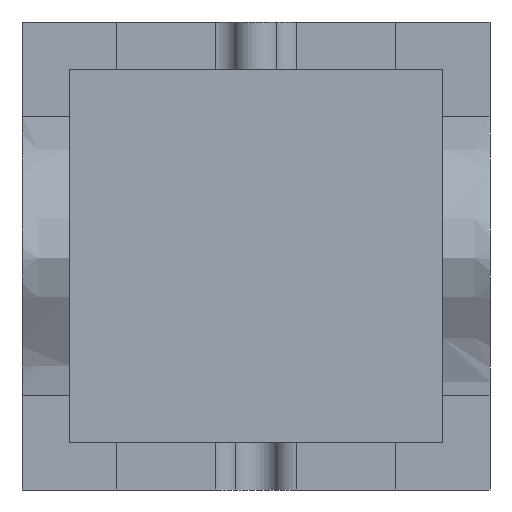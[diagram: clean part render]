
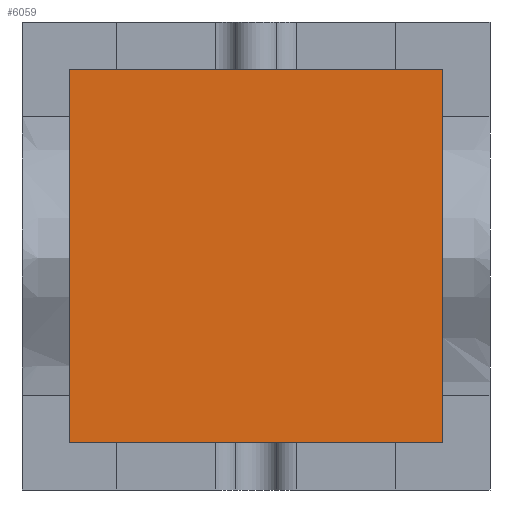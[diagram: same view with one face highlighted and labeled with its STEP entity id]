
A CAD part, front view. The second image highlights one B-rep face of the part: STEP entity #6059.
In plain terms, the highlighted planar face has unit normal (0, -1, 0).
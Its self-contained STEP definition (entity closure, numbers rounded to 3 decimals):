
#5933=CARTESIAN_POINT('Vertex',(-20.,-30.,-20.)) ;
#5938=CARTESIAN_POINT('Line Origine',(-20.,-30.,59.5)) ;
#5942=CARTESIAN_POINT('Vertex',(-20.,-30.,139.)) ;
#5969=CARTESIAN_POINT('Line Origine',(59.5,-30.,139.)) ;
#5973=CARTESIAN_POINT('Vertex',(139.,-30.,139.)) ;
#6000=CARTESIAN_POINT('Line Origine',(139.,-30.,59.5)) ;
#6004=CARTESIAN_POINT('Vertex',(139.,-30.,-20.)) ;
#6031=CARTESIAN_POINT('Line Origine',(59.5,-30.,-20.)) ;
#6048=CARTESIAN_POINT('Axis2P3D Location',(0.,-30.,0.)) ;
#5939=DIRECTION('Vector Direction',(0.,0.,-1.)) ;
#5970=DIRECTION('Vector Direction',(1.,0.,0.)) ;
#6001=DIRECTION('Vector Direction',(0.,0.,1.)) ;
#6032=DIRECTION('Vector Direction',(-1.,0.,0.)) ;
#6049=DIRECTION('Axis2P3D Direction',(0.,1.,0.)) ;
#6050=DIRECTION('Axis2P3D XDirection',(-1.,0.,0.)) ;
#6051=AXIS2_PLACEMENT_3D('Plane Axis2P3D',#6048,#6049,#6050) ;
#6054=ORIENTED_EDGE('',*,*,#6035,.F.) ;
#6055=ORIENTED_EDGE('',*,*,#6006,.F.) ;
#6056=ORIENTED_EDGE('',*,*,#5975,.F.) ;
#6057=ORIENTED_EDGE('',*,*,#5944,.F.) ;
#5940=VECTOR('Line Direction',#5939,1.) ;
#5971=VECTOR('Line Direction',#5970,1.) ;
#6002=VECTOR('Line Direction',#6001,1.) ;
#6033=VECTOR('Line Direction',#6032,1.) ;
#6059=ADVANCED_FACE('Cavity-molde',(#6058),#6052,.F.) ;
#5944=EDGE_CURVE('',#5934,#5943,#5941,.F.) ;
#5975=EDGE_CURVE('',#5943,#5974,#5972,.T.) ;
#6006=EDGE_CURVE('',#5974,#6005,#6003,.F.) ;
#6035=EDGE_CURVE('',#6005,#5934,#6034,.T.) ;
#6053=EDGE_LOOP('',(#6054,#6055,#6056,#6057)) ;
#6058=FACE_OUTER_BOUND('',#6053,.T.) ;
#5941=LINE('Line',#5938,#5940) ;
#5972=LINE('Line',#5969,#5971) ;
#6003=LINE('Line',#6000,#6002) ;
#6034=LINE('Line',#6031,#6033) ;
#6052=PLANE('',#6051) ;
#5934=VERTEX_POINT('',#5933) ;
#5943=VERTEX_POINT('',#5942) ;
#5974=VERTEX_POINT('',#5973) ;
#6005=VERTEX_POINT('',#6004) ;
